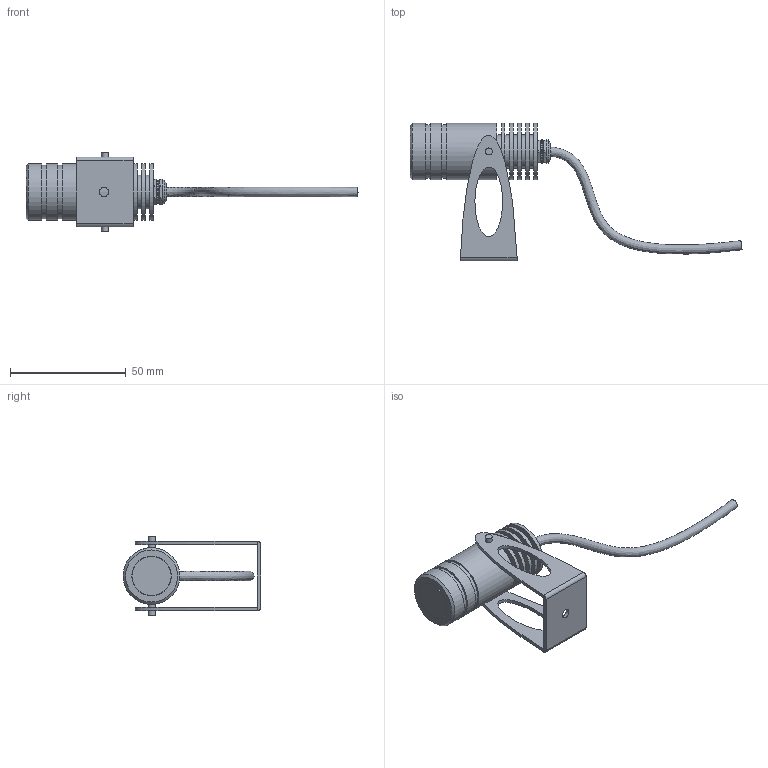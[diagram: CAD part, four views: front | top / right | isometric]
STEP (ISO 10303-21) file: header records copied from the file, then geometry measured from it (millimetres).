
FILE_DESCRIPTION(/* description */ (''),/* implementation_level */ '2;1');
FILE_NAME(/* name */ 'C:/Users/elena/OneDrive/Allegati di posta elettronica/Desktop/Pinolo bracket.step',/* time_stamp */ '2020-06-09T13:21:51+02:00',/* author */ (''),/* organization */ (''),/* preprocessor_version */ 'ST-DEVELOPER v18.1',/* originating_system */ 'Autodesk Translation Framework v9.3.0.1241',/* authorisation */ '');
FILE_SCHEMA (('AUTOMOTIVE_DESIGN { 1 0 10303 214 3 1 1 }'));
Length unit declared in the file: millimetre
Products named in the file (1): (Unsaved)
Bounding box: 143.31 x 59.44 x 34 mm (x, y, z)
Volume: 19964.8 mm3; surface area: 18365.9 mm2
Topology: 7 solids, 14 shells, 144 faces, 271 edges, 177 vertices
Faces by surface type: plane 76, cylinder 57, cone 6, bspline 5
Full cylindrical faces by diameter (mm): 3 x6, 4 x1, 5 x1, 10.127 x1, 14.5 x5, 16.9 x1, 17 x1, 19.9 x1, 20.5 x1, 22 x2, 23 x2, 23.4 x1, 24.5 x8
Entity records: 4241 total; most frequent: CARTESIAN_POINT 1207, DIRECTION 653, ORIENTED_EDGE 542, EDGE_CURVE 271, AXIS2_PLACEMENT_3D 267, EDGE_LOOP 180, VERTEX_POINT 177, FACE_OUTER_BOUND 144
